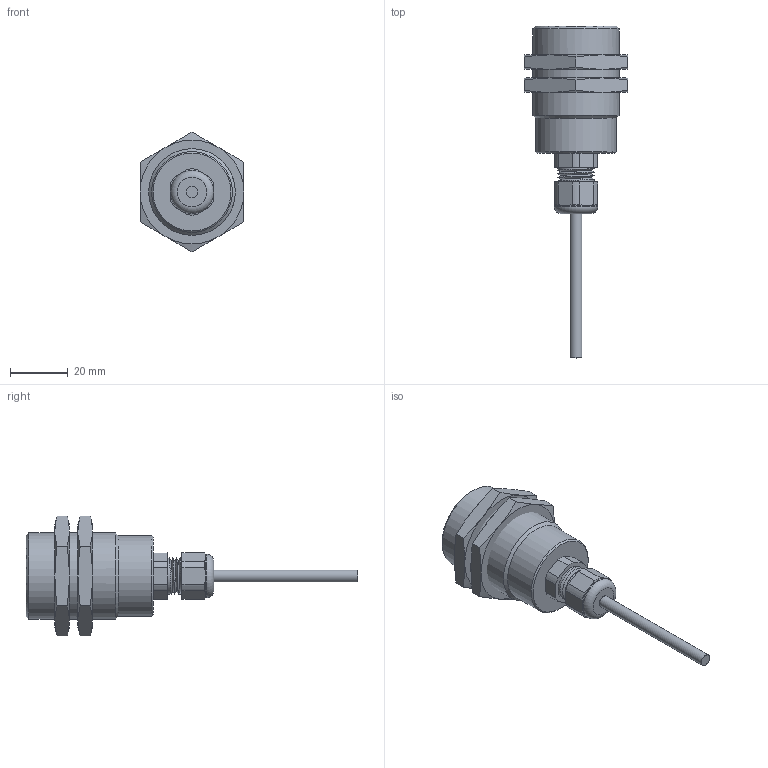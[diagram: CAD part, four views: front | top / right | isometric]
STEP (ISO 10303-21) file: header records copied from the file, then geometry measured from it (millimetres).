
FILE_DESCRIPTION(/* description */ ('Katalogmodell Elobau'),/* implementation_level */ '2;1');
FILE_NAME(/* name */ 'Katalogdaten.stp',/* time_stamp */ '2014-09-10T16:12:37+02:00',/* author */ ('Elobau GmbH & Co. KG'),/* organization */ ('Elobau GmbH & Co. KG'),/* preprocessor_version */ 'ST-DEVELOPER v15',/* originating_system */ 'SIEMENS PLM Software NX 8.5',/* authorisation */ '');
FILE_SCHEMA (('AUTOMOTIVE_DESIGN { 1 0 10303 214 3 1 1 1 }'));
Length unit declared in the file: millimetre
Products named in the file (1): 171271V_D
Bounding box: 36 x 115 x 41.57 mm (x, y, z)
Volume: 11126.6 mm3; surface area: 12793.2 mm2
Topology: 2 solids, 3 shells, 96 faces, 227 edges, 140 vertices
Faces by surface type: plane 39, cone 33, cylinder 20, bspline 3, torus 1
Full cylindrical faces by diameter (mm): 4.1 x1, 12.5 x1, 15 x1, 28 x1, 30 x1
Entity records: 3690 total; most frequent: CARTESIAN_POINT 1669, ORIENTED_EDGE 418, DIRECTION 374, EDGE_CURVE 209, AXIS2_PLACEMENT_3D 161, VERTEX_POINT 132, EDGE_LOOP 107, ADVANCED_FACE 95
